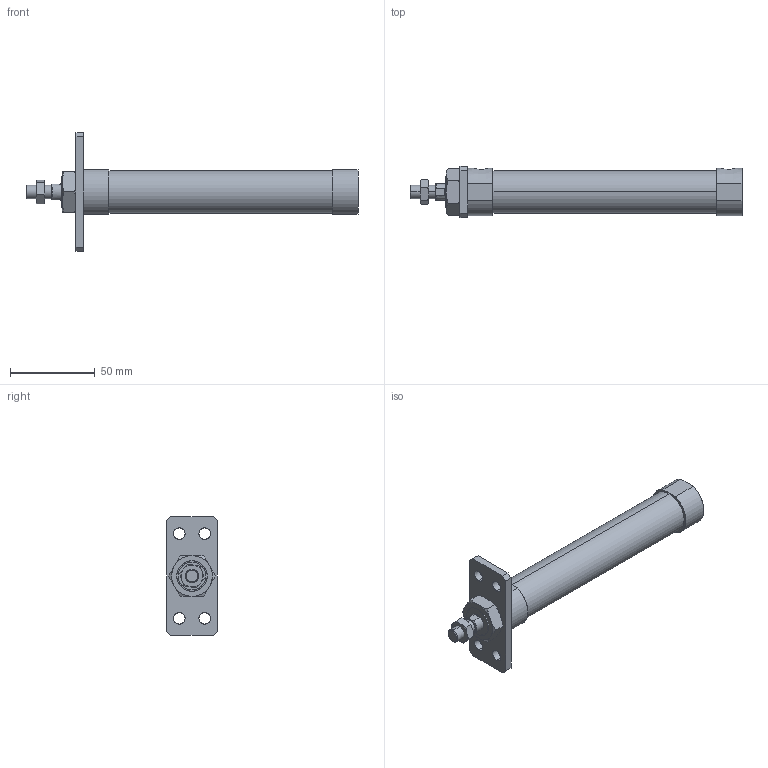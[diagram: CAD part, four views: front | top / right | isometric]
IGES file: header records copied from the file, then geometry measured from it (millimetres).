
Start section: SolidWorks IGES file using analytic representation for surfaces
Global section: file name: C:\Users\Toshiba\Desktop\JGND2-20-100-A.IGS; native system: SolidWorks 2014; preprocessor: SolidWorks 2014; author: Toshiba; date: 160804.102929; units: millimetre
Bounding box: 196 x 30 x 70 mm (x, y, z)
Surface area: 23417 mm2 (no closed solid volume)
Topology: 0 solids, 0 shells, 104 faces, 1876 edges, 1876 vertices
Faces by surface type: bspline 68, revolution 36
